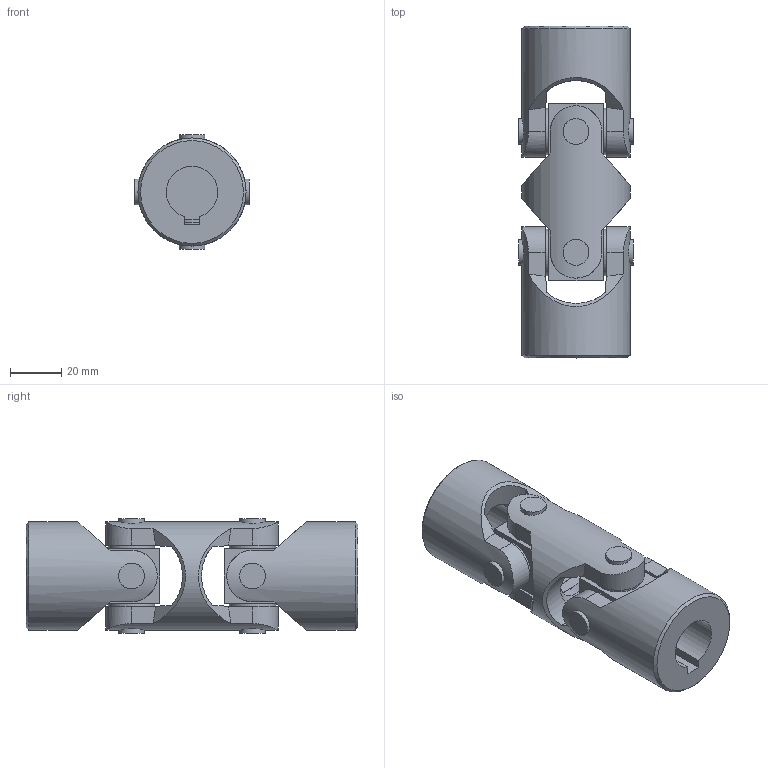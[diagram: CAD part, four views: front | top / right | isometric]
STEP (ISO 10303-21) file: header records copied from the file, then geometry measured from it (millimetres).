
FILE_DESCRIPTION(/* description */ (''),/* implementation_level */ '2;1');
FILE_NAME(/* name */ '\\SRV2016\Societa\Stefano\Disegni 3D\0Catalogo 3D\14Doppi XD\Ø42_3XD_SX0D202C.stp',/* time_stamp */ '2023-05-15T09:10:10+02:00',/* author */ ('acquisti'),/* organization */ (''),/* preprocessor_version */ 'ST-DEVELOPER v15.6',/* originating_system */ 'Autodesk Inventor 2015',/* authorisation */ '');
FILE_SCHEMA (('AUTOMOTIVE_DESIGN { 1 0 10303 214 3 1 1 }'));
Length unit declared in the file: millimetre
Products named in the file (4): 3X MOD; 3X SFE; 3X MOC; Ø42_3XD_SX0D2000
Assembly tree (5 placements, depth 2):
  Ø42_3XD_SX0D2000
    3X MOD
    3X SFE  x2
    3X MOC  x2
Bounding box: 44.4 x 129 x 44.4 mm (x, y, z)
Volume: 118147.9 mm3; surface area: 34978.6 mm2
Topology: 5 solids, 5 shells, 127 faces, 331 edges, 226 vertices
Faces by surface type: plane 68, cylinder 33, cone 22, torus 4
Full cylindrical faces by diameter (mm): 10 x8, 18 x8, 22 x2, 42 x3
Entity records: 3111 total; most frequent: CARTESIAN_POINT 1142, ORIENTED_EDGE 392, DIRECTION 365, EDGE_CURVE 196, AXIS2_PLACEMENT_3D 154, VERTEX_POINT 144, EDGE_LOOP 116, FACE_OUTER_BOUND 85
